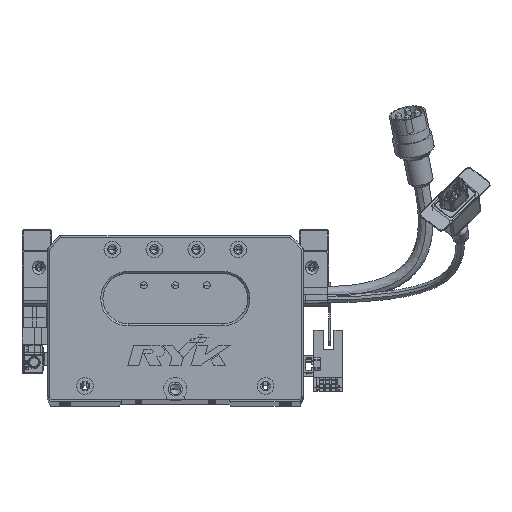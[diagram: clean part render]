
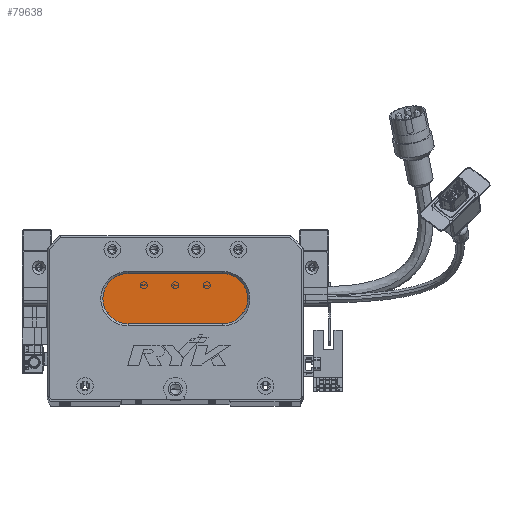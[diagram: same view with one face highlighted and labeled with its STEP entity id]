
A CAD part, top view. The second image highlights one B-rep face of the part: STEP entity #79638.
In plain terms, the highlighted planar face has unit normal (0, 0, 1) as drawn and (0, 0, -1) by its records, which use the part's own axes.
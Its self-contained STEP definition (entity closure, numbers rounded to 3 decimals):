
#929 = DIRECTION ( 'NONE',  ( -1., 0., 0. ) ) ;
#3330 = AXIS2_PLACEMENT_3D ( 'NONE', #43286, #3947, #49895 ) ;
#3947 = DIRECTION ( 'NONE',  ( 0., 0., -1. ) ) ;
#7995 = DIRECTION ( 'NONE',  ( 0., 0., -1. ) ) ;
#8324 = EDGE_CURVE ( 'NONE', #56734, #30679, #58258, .T. ) ;
#9225 = LINE ( 'NONE', #30149, #59495 ) ;
#14276 = CARTESIAN_POINT ( 'NONE',  ( 38.5, 48., 13. ) ) ;
#15034 = CIRCLE ( 'NONE', #3330, 12. ) ;
#22109 = DIRECTION ( 'NONE',  ( -1., 0., 0. ) ) ;
#29621 = AXIS2_PLACEMENT_3D ( 'NONE', #46571, #73760, #929 ) ;
#29865 = CARTESIAN_POINT ( 'NONE',  ( 83.5, 48., 13. ) ) ;
#30149 = CARTESIAN_POINT ( 'NONE',  ( 83.5, 60., 13. ) ) ;
#30679 = VERTEX_POINT ( 'NONE', #80406 ) ;
#33225 = VERTEX_POINT ( 'NONE', #84090 ) ;
#33637 = ORIENTED_EDGE ( 'NONE', *, *, #8324, .T. ) ;
#33645 = EDGE_CURVE ( 'NONE', #30679, #85095, #47501, .T. ) ;
#34367 = ORIENTED_EDGE ( 'NONE', *, *, #83075, .T. ) ;
#36560 = CARTESIAN_POINT ( 'NONE',  ( 83.5, 36., 13. ) ) ;
#36762 = DIRECTION ( 'NONE',  ( 1., 0., 0. ) ) ;
#37069 = EDGE_LOOP ( 'NONE', ( #47633, #33637, #43447, #34367, #46787 ) ) ;
#43286 = CARTESIAN_POINT ( 'NONE',  ( 38.5, 48., 13. ) ) ;
#43447 = ORIENTED_EDGE ( 'NONE', *, *, #33645, .T. ) ;
#46571 = CARTESIAN_POINT ( 'NONE',  ( 83.5, 48., 13. ) ) ;
#46787 = ORIENTED_EDGE ( 'NONE', *, *, #79027, .T. ) ;
#47132 = CIRCLE ( 'NONE', #29621, 12. ) ;
#47501 = CIRCLE ( 'NONE', #57307, 12. ) ;
#47633 = ORIENTED_EDGE ( 'NONE', *, *, #51378, .T. ) ;
#49895 = DIRECTION ( 'NONE',  ( -1., 0., 0. ) ) ;
#50527 = CARTESIAN_POINT ( 'NONE',  ( 26.5, 48., 13. ) ) ;
#50856 = VERTEX_POINT ( 'NONE', #80178 ) ;
#51378 = EDGE_CURVE ( 'NONE', #33225, #56734, #47132, .T. ) ;
#54189 = VECTOR ( 'NONE', #22109, 1000. ) ;
#55087 = CARTESIAN_POINT ( 'NONE',  ( 83.5, 36., 13. ) ) ;
#55269 = FACE_OUTER_BOUND ( 'NONE', #37069, .T. ) ;
#55441 = DIRECTION ( 'NONE',  ( 0., 0., -1. ) ) ;
#55734 = DIRECTION ( 'NONE',  ( -1., 0., 0. ) ) ;
#56734 = VERTEX_POINT ( 'NONE', #36560 ) ;
#57307 = AXIS2_PLACEMENT_3D ( 'NONE', #14276, #7995, #80845 ) ;
#58258 = LINE ( 'NONE', #55087, #54189 ) ;
#59495 = VECTOR ( 'NONE', #36762, 1000. ) ;
#65218 = AXIS2_PLACEMENT_3D ( 'NONE', #29865, #55441, #55734 ) ;
#73760 = DIRECTION ( 'NONE',  ( 0., 0., -1. ) ) ;
#79027 = EDGE_CURVE ( 'NONE', #50856, #33225, #9225, .T. ) ;
#79638 = ADVANCED_FACE ( 'NONE', ( #55269 ), #82654, .T. ) ;
#80178 = CARTESIAN_POINT ( 'NONE',  ( 38.5, 60., 13. ) ) ;
#80406 = CARTESIAN_POINT ( 'NONE',  ( 38.5, 36., 13. ) ) ;
#80845 = DIRECTION ( 'NONE',  ( -1., 0., 0. ) ) ;
#82654 = PLANE ( 'NONE',  #65218 ) ;
#83075 = EDGE_CURVE ( 'NONE', #85095, #50856, #15034, .T. ) ;
#84090 = CARTESIAN_POINT ( 'NONE',  ( 83.5, 60., 13. ) ) ;
#85095 = VERTEX_POINT ( 'NONE', #50527 ) ;
